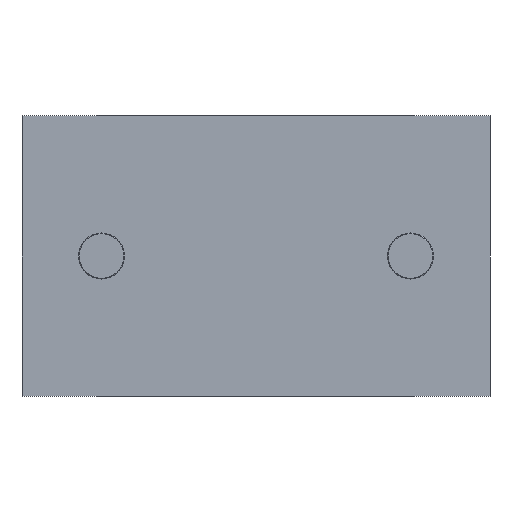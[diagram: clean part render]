
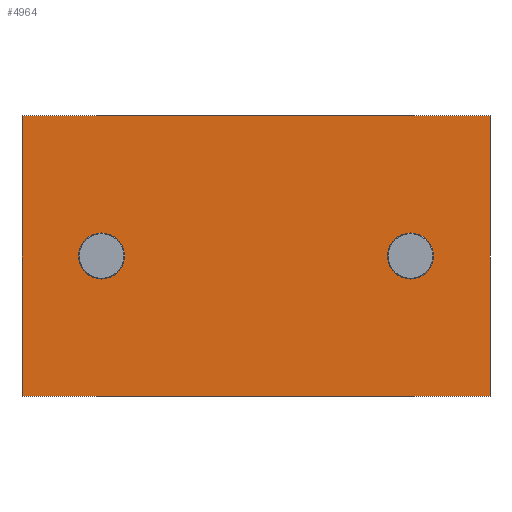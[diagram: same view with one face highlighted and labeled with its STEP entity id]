
A CAD part, front view. The second image highlights one B-rep face of the part: STEP entity #4964.
In plain terms, the highlighted planar face has unit normal (0, -1, 0).
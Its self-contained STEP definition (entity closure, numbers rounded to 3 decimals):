
#642=LINE('',#8665,#1028);
#646=LINE('',#8674,#1032);
#649=LINE('',#8680,#1035);
#652=LINE('',#8686,#1038);
#1028=VECTOR('',#7023,1000.);
#1032=VECTOR('',#7029,1000.);
#1035=VECTOR('',#7034,1000.);
#1038=VECTOR('',#7039,1000.);
#2444=ORIENTED_EDGE('',*,*,#3175,.F.);
#2445=ORIENTED_EDGE('',*,*,#3176,.F.);
#2446=ORIENTED_EDGE('',*,*,#3161,.F.);
#2447=ORIENTED_EDGE('',*,*,#3171,.F.);
#2448=ORIENTED_EDGE('',*,*,#3168,.F.);
#2449=ORIENTED_EDGE('',*,*,#3165,.F.);
#3161=EDGE_CURVE('',#3648,#3649,#642,.T.);
#3165=EDGE_CURVE('',#3649,#3652,#646,.T.);
#3168=EDGE_CURVE('',#3652,#3654,#649,.T.);
#3171=EDGE_CURVE('',#3654,#3648,#652,.T.);
#3175=EDGE_CURVE('',#3658,#3658,#3921,.T.);
#3176=EDGE_CURVE('',#3659,#3659,#3922,.T.);
#3648=VERTEX_POINT('',#8666);
#3649=VERTEX_POINT('',#8667);
#3652=VERTEX_POINT('',#8675);
#3654=VERTEX_POINT('',#8681);
#3658=VERTEX_POINT('',#8695);
#3659=VERTEX_POINT('',#8697);
#3921=CIRCLE('',#5562,2.459);
#3922=CIRCLE('',#5563,2.459);
#4232=EDGE_LOOP('',(#2444));
#4233=EDGE_LOOP('',(#2445));
#4234=EDGE_LOOP('',(#2446,#2447,#2448,#2449));
#4556=FACE_BOUND('',#4232,.T.);
#4557=FACE_BOUND('',#4233,.T.);
#4558=FACE_BOUND('',#4234,.T.);
#4696=PLANE('',#5561);
#4964=ADVANCED_FACE('',(#4556,#4557,#4558),#4696,.F.);
#5561=AXIS2_PLACEMENT_3D('',#8693,#7047,#7048);
#5562=AXIS2_PLACEMENT_3D('',#8694,#7049,#7050);
#5563=AXIS2_PLACEMENT_3D('',#8696,#7051,#7052);
#7023=DIRECTION('',(-1.,0.,0.));
#7029=DIRECTION('',(0.,0.,1.));
#7034=DIRECTION('',(1.,0.,0.));
#7039=DIRECTION('',(0.,0.,-1.));
#7047=DIRECTION('',(0.,1.,0.));
#7048=DIRECTION('',(0.,0.,1.));
#7049=DIRECTION('',(0.,-1.,0.));
#7050=DIRECTION('',(0.,0.,-1.));
#7051=DIRECTION('',(0.,-1.,0.));
#7052=DIRECTION('',(0.,0.,-1.));
#8665=CARTESIAN_POINT('',(25.,0.,-15.));
#8666=CARTESIAN_POINT('',(25.,0.,-15.));
#8667=CARTESIAN_POINT('',(-25.,0.,-15.));
#8674=CARTESIAN_POINT('',(-25.,0.,-15.));
#8675=CARTESIAN_POINT('',(-25.,0.,15.));
#8680=CARTESIAN_POINT('',(-25.,0.,15.));
#8681=CARTESIAN_POINT('',(25.,0.,15.));
#8686=CARTESIAN_POINT('',(25.,0.,15.));
#8693=CARTESIAN_POINT('',(0.,0.,0.));
#8694=CARTESIAN_POINT('',(16.5,0.,0.));
#8695=CARTESIAN_POINT('',(16.5,0.,-2.459));
#8696=CARTESIAN_POINT('',(-16.5,0.,0.));
#8697=CARTESIAN_POINT('',(-16.5,0.,-2.459));
